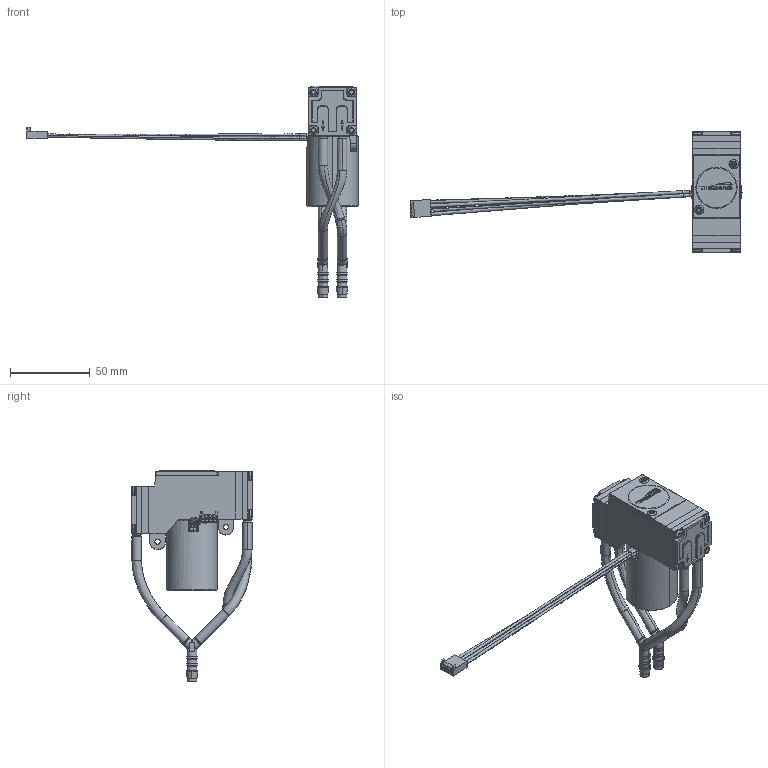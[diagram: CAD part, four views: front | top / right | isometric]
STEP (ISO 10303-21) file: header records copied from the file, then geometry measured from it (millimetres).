
FILE_DESCRIPTION (( 'STEP AP214' ), '1' );
FILE_NAME ('14200803-18.STEP', '2020-06-03T07:24:34', ( 'admin' ), ( 'Gardner Denver' ), 'SwSTEP 2.0', 'SolidWorks 2018', '' );
FILE_SCHEMA (( 'AUTOMOTIVE_DESIGN' ));
Length unit declared in the file: inch
Products named in the file (1): 14200803-18
Bounding box: 208.75 x 75.8 x 133.15 mm (x, y, z)
Volume: 119226.3 mm3; surface area: 30649.6 mm2
Topology: 1 solids, 1 shells, 2594 faces, 7236 edges, 4751 vertices
Faces by surface type: plane 1754, bspline 423, cylinder 334, cone 83
Entity records: 100113 total; most frequent: CARTESIAN_POINT 36369, ORIENTED_EDGE 14464, DIRECTION 11260, EDGE_CURVE 7232, LINE 5358, VECTOR 5358, VERTEX_POINT 4751, AXIS2_PLACEMENT_3D 2951
